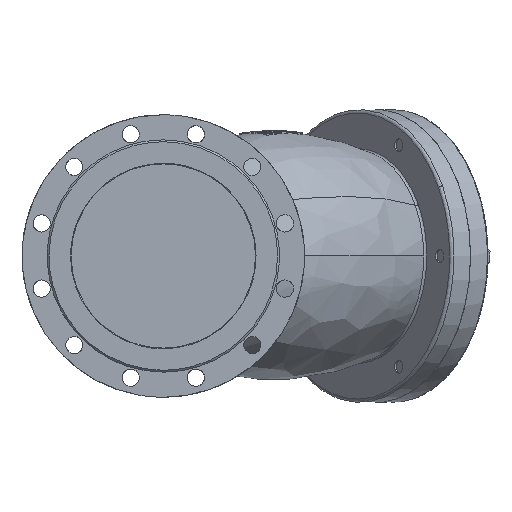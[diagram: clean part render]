
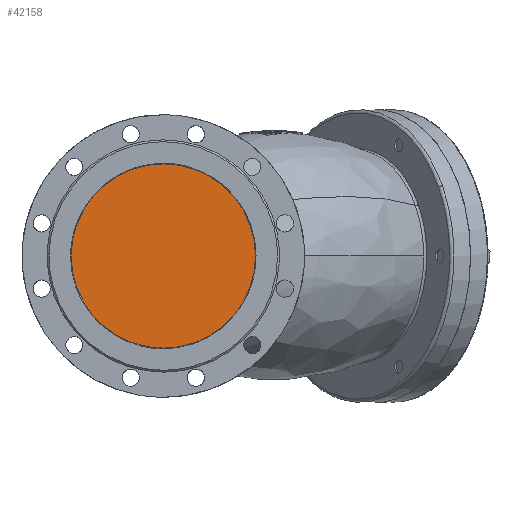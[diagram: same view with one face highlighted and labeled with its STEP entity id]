
A CAD part, left-side view. The second image highlights one B-rep face of the part: STEP entity #42158.
In plain terms, the highlighted planar face has unit normal (-1, 0, 0).
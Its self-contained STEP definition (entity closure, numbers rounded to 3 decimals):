
#175 = EDGE_CURVE ( 'NONE', #18891, #18891, #6990, .T. ) ;
#2627 = DIRECTION ( 'NONE',  ( 0., 1., 0. ) ) ;
#6787 = FACE_OUTER_BOUND ( 'NONE', #47636, .T. ) ;
#6990 = CIRCLE ( 'NONE', #23429, 150. ) ;
#8235 = AXIS2_PLACEMENT_3D ( 'NONE', #45706, #16758, #2627 ) ;
#8935 = CARTESIAN_POINT ( 'NONE',  ( 16.981, 150., 0. ) ) ;
#16758 = DIRECTION ( 'NONE',  ( 1., 0., 0. ) ) ;
#18891 = VERTEX_POINT ( 'NONE', #8935 ) ;
#23429 = AXIS2_PLACEMENT_3D ( 'NONE', #45110, #30597, #34793 ) ;
#30597 = DIRECTION ( 'NONE',  ( -1., 0., 0. ) ) ;
#34793 = DIRECTION ( 'NONE',  ( 0., 1., 0. ) ) ;
#42158 = ADVANCED_FACE ( 'NONE', ( #6787 ), #51165, .F. ) ;
#45110 = CARTESIAN_POINT ( 'NONE',  ( 16.981, 0., 0. ) ) ;
#45706 = CARTESIAN_POINT ( 'NONE',  ( 16.981, 0., 0. ) ) ;
#47636 = EDGE_LOOP ( 'NONE', ( #49248 ) ) ;
#49248 = ORIENTED_EDGE ( 'NONE', *, *, #175, .T. ) ;
#51165 = PLANE ( 'NONE',  #8235 ) ;
